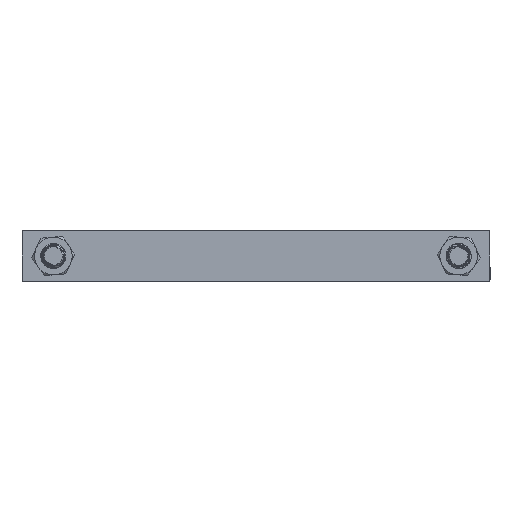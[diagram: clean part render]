
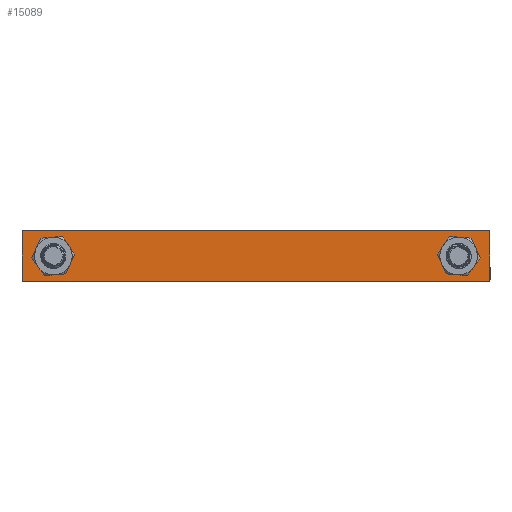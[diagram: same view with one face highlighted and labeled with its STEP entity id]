
A CAD part, front view. The second image highlights one B-rep face of the part: STEP entity #15089.
In plain terms, the highlighted planar face has unit normal (0, -1, 0).
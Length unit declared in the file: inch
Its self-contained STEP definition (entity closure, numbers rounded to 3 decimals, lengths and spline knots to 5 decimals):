
#640 = DIRECTION ( 'NONE',  ( 0., 1., 0. ) ) ;
#814 = CARTESIAN_POINT ( 'NONE',  ( 0., 0.05, 0.74833 ) ) ;
#1338 = CIRCLE ( 'NONE', #16202, 0.4375 ) ;
#1800 = VERTEX_POINT ( 'NONE', #7564 ) ;
#2105 = CARTESIAN_POINT ( 'NONE',  ( 13.0625, 0.05, -0.4375 ) ) ;
#2372 = ORIENTED_EDGE ( 'NONE', *, *, #10183, .T. ) ;
#2675 = CARTESIAN_POINT ( 'NONE',  ( 14., 0.05, -0.74833 ) ) ;
#2826 = VECTOR ( 'NONE', #9610, 39.37008 ) ;
#3028 = ORIENTED_EDGE ( 'NONE', *, *, #4808, .T. ) ;
#3864 = ORIENTED_EDGE ( 'NONE', *, *, #4959, .T. ) ;
#4097 = LINE ( 'NONE', #9882, #18086 ) ;
#4174 = DIRECTION ( 'NONE',  ( 0., 0., -1. ) ) ;
#4271 = CARTESIAN_POINT ( 'NONE',  ( 0., 0.05, 0. ) ) ;
#4354 = CARTESIAN_POINT ( 'NONE',  ( 0.9375, 0.05, 0. ) ) ;
#4724 = DIRECTION ( 'NONE',  ( 0., 0., -1. ) ) ;
#4808 = EDGE_CURVE ( 'Edge7', #5996, #14001, #7976, .T. ) ;
#4924 = AXIS2_PLACEMENT_3D ( 'NONE', #5282, #9463, #5186 ) ;
#4959 = EDGE_CURVE ( 'Edge12', #11413, #14078, #1338, .T. ) ;
#5186 = DIRECTION ( 'NONE',  ( 0., 0., 1. ) ) ;
#5282 = CARTESIAN_POINT ( 'NONE',  ( 13.0625, 0.05, 0. ) ) ;
#5348 = VECTOR ( 'NONE', #4174, 39.37008 ) ;
#5394 = EDGE_LOOP ( 'NONE', ( #15412, #3864 ) ) ;
#5579 = AXIS2_PLACEMENT_3D ( 'NONE', #13458, #640, #13552 ) ;
#5996 = VERTEX_POINT ( 'NONE', #2105 ) ;
#6049 = EDGE_CURVE ( 'Edge13', #1800, #6292, #9697, .T. ) ;
#6292 = VERTEX_POINT ( 'NONE', #18732 ) ;
#6420 = EDGE_CURVE ( 'Edge6', #10844, #1800, #7881, .T. ) ;
#7089 = DIRECTION ( 'NONE',  ( 0., 1., 0. ) ) ;
#7124 = FACE_OUTER_BOUND ( 'NONE', #9005, .T. ) ;
#7220 = FACE_BOUND ( 'NONE', #5394, .T. ) ;
#7564 = CARTESIAN_POINT ( 'NONE',  ( 0., 0.05, -0.74833 ) ) ;
#7837 = EDGE_CURVE ( 'Edge12', #14078, #11413, #14704, .T. ) ;
#7881 = LINE ( 'NONE', #13581, #18632 ) ;
#7896 = ORIENTED_EDGE ( 'NONE', *, *, #15994, .T. ) ;
#7976 = CIRCLE ( 'NONE', #4924, 0.4375 ) ;
#8627 = PLANE ( 'NONE',  #11996 ) ;
#9005 = EDGE_LOOP ( 'NONE', ( #7896, #9135, #11612, #18542 ) ) ;
#9135 = ORIENTED_EDGE ( 'NONE', *, *, #6420, .T. ) ;
#9463 = DIRECTION ( 'NONE',  ( 0., 1., 0. ) ) ;
#9610 = DIRECTION ( 'NONE',  ( 1., 0., 0. ) ) ;
#9616 = CARTESIAN_POINT ( 'NONE',  ( 0.9375, 0.05, 0.4375 ) ) ;
#9697 = LINE ( 'NONE', #2675, #2826 ) ;
#9882 = CARTESIAN_POINT ( 'NONE',  ( 14., 0.05, 0.74833 ) ) ;
#10183 = EDGE_CURVE ( 'Edge7', #14001, #5996, #12593, .T. ) ;
#10437 = FACE_BOUND ( 'NONE', #14526, .T. ) ;
#10815 = DIRECTION ( 'NONE',  ( 0., 0., -1. ) ) ;
#10844 = VERTEX_POINT ( 'NONE', #814 ) ;
#11413 = VERTEX_POINT ( 'NONE', #9616 ) ;
#11612 = ORIENTED_EDGE ( 'NONE', *, *, #6049, .T. ) ;
#11996 = AXIS2_PLACEMENT_3D ( 'NONE', #4271, #13019, #15863 ) ;
#12096 = CARTESIAN_POINT ( 'NONE',  ( 13.0625, 0.05, 0.4375 ) ) ;
#12593 = CIRCLE ( 'NONE', #5579, 0.4375 ) ;
#12777 = CARTESIAN_POINT ( 'NONE',  ( 14., 0.05, 0.74833 ) ) ;
#12884 = DIRECTION ( 'NONE',  ( 0., 0., -1. ) ) ;
#13019 = DIRECTION ( 'NONE',  ( 0., -1., 0. ) ) ;
#13458 = CARTESIAN_POINT ( 'NONE',  ( 13.0625, 0.05, 0. ) ) ;
#13552 = DIRECTION ( 'NONE',  ( 0., 0., 1. ) ) ;
#13581 = CARTESIAN_POINT ( 'NONE',  ( 0., 0.05, 0. ) ) ;
#14001 = VERTEX_POINT ( 'NONE', #12096 ) ;
#14078 = VERTEX_POINT ( 'NONE', #16851 ) ;
#14526 = EDGE_LOOP ( 'NONE', ( #3028, #2372 ) ) ;
#14704 = CIRCLE ( 'NONE', #17123, 0.4375 ) ;
#15089 = ADVANCED_FACE ( 'Face6', ( #10437, #7124, #7220 ), #8627, .T. ) ;
#15372 = VERTEX_POINT ( 'NONE', #12777 ) ;
#15412 = ORIENTED_EDGE ( 'NONE', *, *, #7837, .T. ) ;
#15651 = CARTESIAN_POINT ( 'NONE',  ( 0.9375, 0.05, 0. ) ) ;
#15695 = DIRECTION ( 'NONE',  ( -1., 0., 0. ) ) ;
#15863 = DIRECTION ( 'NONE',  ( 0., 0., -1. ) ) ;
#15994 = EDGE_CURVE ( 'NONE', #15372, #10844, #4097, .T. ) ;
#16202 = AXIS2_PLACEMENT_3D ( 'NONE', #15651, #7089, #12884 ) ;
#16851 = CARTESIAN_POINT ( 'NONE',  ( 0.9375, 0.05, -0.4375 ) ) ;
#17123 = AXIS2_PLACEMENT_3D ( 'NONE', #4354, #18811, #4724 ) ;
#17549 = LINE ( 'NONE', #18610, #5348 ) ;
#17855 = EDGE_CURVE ( 'Edge10', #15372, #6292, #17549, .T. ) ;
#18086 = VECTOR ( 'NONE', #15695, 39.37008 ) ;
#18542 = ORIENTED_EDGE ( 'NONE', *, *, #17855, .F. ) ;
#18610 = CARTESIAN_POINT ( 'NONE',  ( 14., 0.05, 0.875 ) ) ;
#18632 = VECTOR ( 'NONE', #10815, 39.37008 ) ;
#18732 = CARTESIAN_POINT ( 'NONE',  ( 14., 0.05, -0.74833 ) ) ;
#18811 = DIRECTION ( 'NONE',  ( 0., 1., 0. ) ) ;
